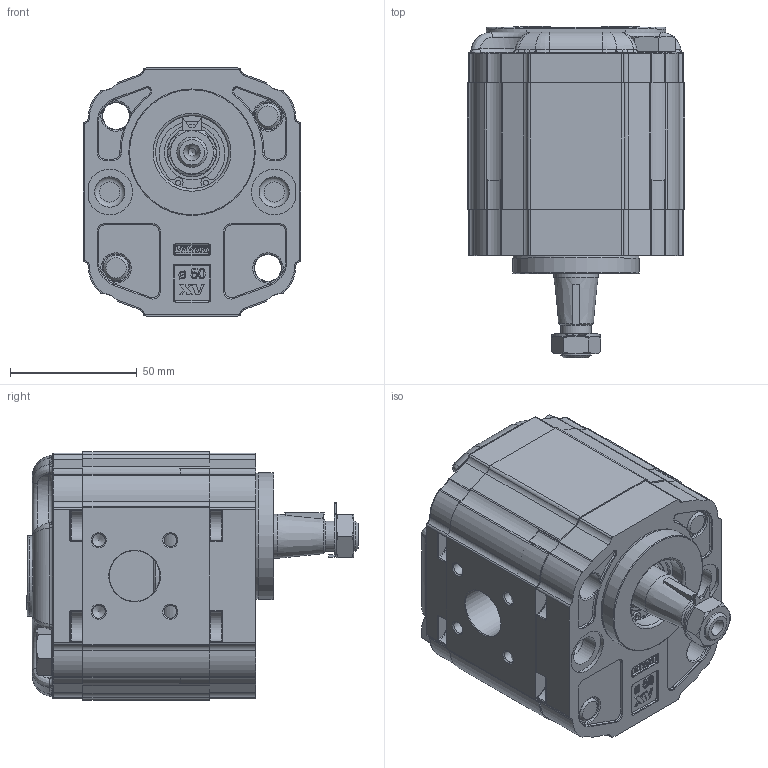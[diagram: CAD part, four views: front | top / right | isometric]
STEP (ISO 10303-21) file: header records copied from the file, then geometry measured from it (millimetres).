
FILE_DESCRIPTION( ( 'Unknown' ), '1' );
FILE_NAME( 'P:/montaggio_easy/output/STP/X2P4322FSRA.stp', 'Unknown', ( 'Unknown' ), ( 'Unknown' ), 'PSStep 14.0', 'Unknown', ' ' );
FILE_SCHEMA( ( 'AUTOMOTIVE_DESIGN { 1 0 10303 214 1 1 1 1 }' ) );
Length unit declared in the file: millimetre
Products named in the file (5): Assem1; X2P22; 2F; X2SRH50; XP213-A
Bounding box: 86 x 131.15 x 98 mm (x, y, z)
Surface area: 197306.1 mm2
Topology: 8 solids, 14 shells, 3544 faces, 9184 edges, 5934 vertices
Faces by surface type: plane 1778, cylinder 898, extrusion 388, torus 238, bspline 126, cone 116
Full cylindrical faces by diameter (mm): 2 x4, 5 x16, 8.5 x4, 10.5 x12, 11 x8, 12 x8, 12.5 x2, 15 x2, 16 x4, 17.42 x2, 17.48 x4, 18.724 x2, 20 x2, 20.595 x2, 21.741 x2, 25.834 x2, 28.56 x2, 28.57 x2, 28.8 x2, 30.5 x2, 50 x2
Entity records: 74373 total; most frequent: CARTESIAN_POINT 17435, ORIENTED_EDGE 8922, DIRECTION 8484, EDGE_CURVE 4461, VERTEX_POINT 2934, VECTOR 2922, AXIS2_PLACEMENT_3D 2781, LINE 2728
